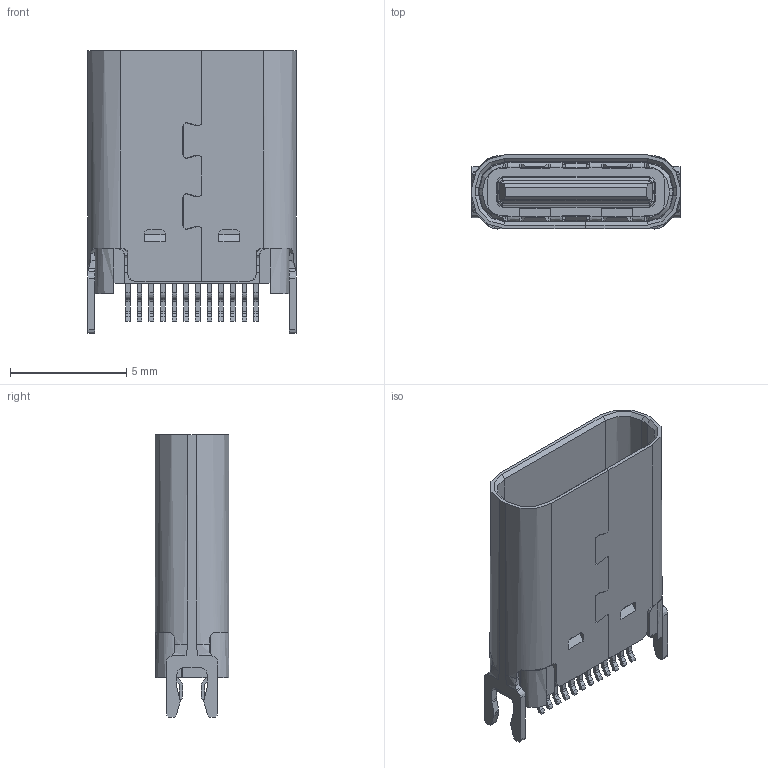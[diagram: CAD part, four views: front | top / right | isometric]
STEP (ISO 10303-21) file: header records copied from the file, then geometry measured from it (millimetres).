
FILE_DESCRIPTION(('CoCreate Modeling STEP Export'),'2;1');
FILE_NAME('UH0B01-027 C F 24P夹板1.0长体10.5成品.stp','2021-08-05T18:31:46',(''),(''),'CoCreate Modeling STEP processor for AP214 (Solid Model)','CoCreate Modeling 16.00 13-May-2008 (C) Parametric Technology GmbH','');
FILE_SCHEMA(('AUTOMOTIVE_DESIGN { 1 0 10303 214 1 1 1 1 }'));
Products named in the file (2): 夹板0_8短体铁壳.1
Assembly tree (1 placements, depth 2):
  夹板0_8短体铁壳.1
    夹板0_8短体铁壳.1
Bounding box: 8.94 x 3.16 x 12.15 mm (x, y, z)
Topology: 0 solids, 20 shells, 1984 faces, 5621 edges, 3694 vertices
Faces by surface type: plane 1435, cylinder 467, cone 36, bspline 30, torus 12, extrusion 4
Entity records: 65756 total; most frequent: CARTESIAN_POINT 13682, ORIENTED_EDGE 11253, DIRECTION 9536, EDGE_CURVE 5622, VECTOR 4174, LINE 4170, VERTEX_POINT 3694, AXIS2_PLACEMENT_3D 2681
